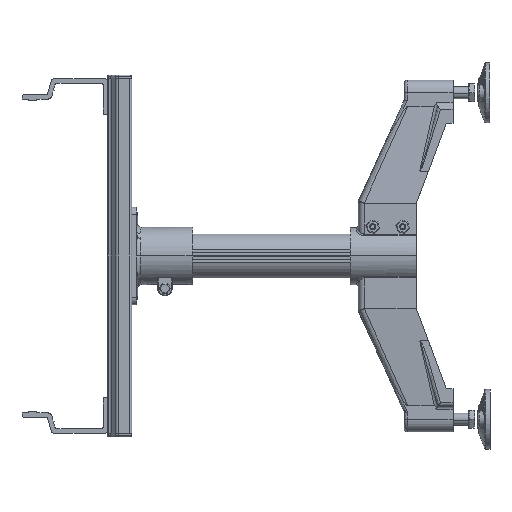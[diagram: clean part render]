
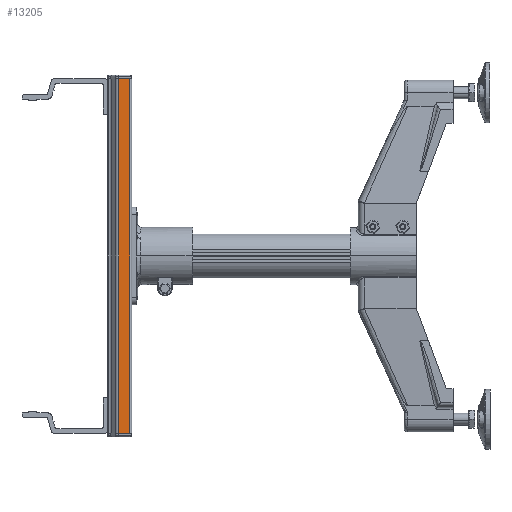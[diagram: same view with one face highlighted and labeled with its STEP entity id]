
A CAD part, left-side view. The second image highlights one B-rep face of the part: STEP entity #13205.
In plain terms, the highlighted planar face has unit normal (-1, 0, 0).
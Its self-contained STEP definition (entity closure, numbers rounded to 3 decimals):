
#6101 = CARTESIAN_POINT ( 'NONE',  ( -476.786, 307.517, 415.021 ) ) ;
#12808 = EDGE_CURVE ( 'NONE', #16175, #23029, #33623, .T. ) ;
#13021 = ORIENTED_EDGE ( 'NONE', *, *, #12808, .T. ) ;
#13022 = ORIENTED_EDGE ( 'NONE', *, *, #13265, .F. ) ;
#13186 = ORIENTED_EDGE ( 'NONE', *, *, #13240, .T. ) ;
#13187 = EDGE_CURVE ( 'NONE', #21762, #13488, #35272, .T. ) ;
#13205 = ADVANCED_FACE ( 'NONE', ( #35236 ), #35120, .F. ) ;
#13239 = ORIENTED_EDGE ( 'NONE', *, *, #13187, .F. ) ;
#13240 = EDGE_CURVE ( 'NONE', #23029, #13488, #35135, .T. ) ;
#13265 = EDGE_CURVE ( 'NONE', #16175, #21762, #35057, .T. ) ;
#13488 = VERTEX_POINT ( 'NONE', #35754 ) ;
#16175 = VERTEX_POINT ( 'NONE', #54643 ) ;
#21151 = EDGE_LOOP ( 'NONE', ( #13186, #13239, #13022, #13021 ) ) ;
#21762 = VERTEX_POINT ( 'NONE', #6101 ) ;
#23029 = VERTEX_POINT ( 'NONE', #56855 ) ;
#33619 = DIRECTION ( 'NONE',  ( 0., 0., -1. ) ) ;
#33620 = VECTOR ( 'NONE', #33619, 1000. ) ;
#33622 = CARTESIAN_POINT ( 'NONE',  ( -476.786, 322.517, 415.021 ) ) ;
#33623 = LINE ( 'NONE', #33622, #33620 ) ;
#34977 = DIRECTION ( 'NONE',  ( 0., -1., 0. ) ) ;
#34978 = VECTOR ( 'NONE', #34977, 1000. ) ;
#34979 = CARTESIAN_POINT ( 'NONE',  ( -476.786, 307.517, -56.979 ) ) ;
#35054 = DIRECTION ( 'NONE',  ( 0., -1., 0. ) ) ;
#35055 = VECTOR ( 'NONE', #35054, 1000. ) ;
#35056 = CARTESIAN_POINT ( 'NONE',  ( -476.786, 307.517, 415.021 ) ) ;
#35057 = LINE ( 'NONE', #35056, #35055 ) ;
#35116 = DIRECTION ( 'NONE',  ( 0., 0., -1. ) ) ;
#35117 = DIRECTION ( 'NONE',  ( 1., 0., 0. ) ) ;
#35118 = CARTESIAN_POINT ( 'NONE',  ( -476.786, 307.517, 415.021 ) ) ;
#35119 = AXIS2_PLACEMENT_3D ( 'NONE', #35118, #35117, #35116 ) ;
#35120 = PLANE ( 'NONE',  #35119 ) ;
#35135 = LINE ( 'NONE', #34979, #34978 ) ;
#35236 = FACE_OUTER_BOUND ( 'NONE', #21151, .T. ) ;
#35269 = DIRECTION ( 'NONE',  ( 0., 0., -1. ) ) ;
#35270 = VECTOR ( 'NONE', #35269, 1000. ) ;
#35271 = CARTESIAN_POINT ( 'NONE',  ( -476.786, 307.517, 415.021 ) ) ;
#35272 = LINE ( 'NONE', #35271, #35270 ) ;
#35754 = CARTESIAN_POINT ( 'NONE',  ( -476.786, 307.517, -56.979 ) ) ;
#54643 = CARTESIAN_POINT ( 'NONE',  ( -476.786, 322.517, 415.021 ) ) ;
#56855 = CARTESIAN_POINT ( 'NONE',  ( -476.786, 322.517, -56.979 ) ) ;
